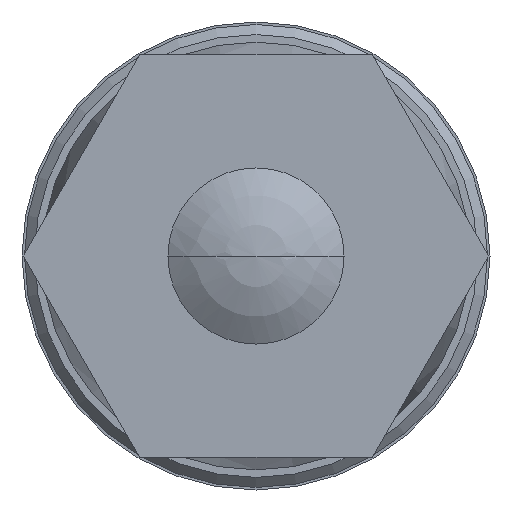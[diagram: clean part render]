
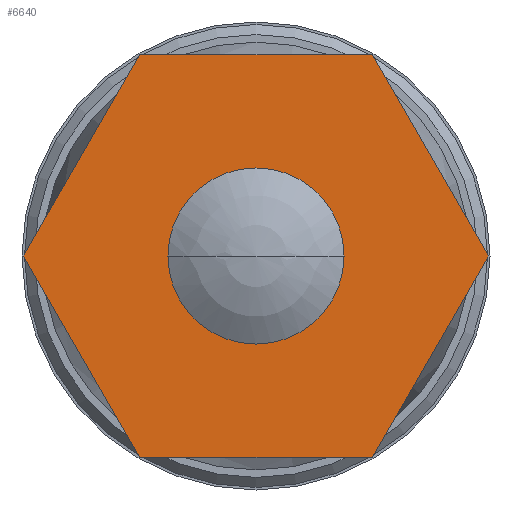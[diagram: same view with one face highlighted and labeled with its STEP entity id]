
A CAD part, left-side view. The second image highlights one B-rep face of the part: STEP entity #6640.
In plain terms, the highlighted planar face has unit normal (-1, 0, 0).
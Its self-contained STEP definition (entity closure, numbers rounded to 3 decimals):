
#5940=CARTESIAN_POINT('',(7.5,2.125,0.));
#5950=DIRECTION('',(1.,0.,0.));
#5960=DIRECTION('',(0.,-1.,0.));
#5970=AXIS2_PLACEMENT_3D('',#5940,#5950,#5960);
#5980=PLANE('',#5970);
#5990=CARTESIAN_POINT('',(7.5,0.,0.));
#6000=DIRECTION('',(1.,0.,0.));
#6010=DIRECTION('',(0.,-1.,0.));
#6020=AXIS2_PLACEMENT_3D('',#5990,#6000,#6010);
#6030=CIRCLE('',#6020,1.75);
#6040=CARTESIAN_POINT('',(7.5,1.75,0.));
#6050=VERTEX_POINT('',#6040);
#6060=CARTESIAN_POINT('',(7.5,-1.75,0.));
#6070=VERTEX_POINT('',#6060);
#6080=EDGE_CURVE('',#6050,#6070,#6030,.T.);
#6090=ORIENTED_EDGE('',*,*,#6080,.T.);
#6100=EDGE_CURVE('',#6070,#6050,#6030,.T.);
#6110=ORIENTED_EDGE('',*,*,#6100,.T.);
#6120=EDGE_LOOP('',(#6110,#6090));
#6130=FACE_BOUND('',#6120,.T.);
#6140=CARTESIAN_POINT('',(7.5,2.309,-4.));
#6150=DIRECTION('',(0.,-1.,0.));
#6160=VECTOR('',#6150,1.);
#6170=LINE('',#6140,#6160);
#6180=CARTESIAN_POINT('',(7.5,2.309,-4.));
#6190=VERTEX_POINT('',#6180);
#6200=CARTESIAN_POINT('',(7.5,-2.309,-4.));
#6210=VERTEX_POINT('',#6200);
#6220=EDGE_CURVE('',#6190,#6210,#6170,.T.);
#6230=ORIENTED_EDGE('',*,*,#6220,.T.);
#6240=CARTESIAN_POINT('',(7.5,2.309,-4.));
#6250=DIRECTION('',(0.,0.5,0.866));
#6260=VECTOR('',#6250,1.);
#6270=LINE('',#6240,#6260);
#6280=CARTESIAN_POINT('',(7.5,4.619,
0.));
#6290=VERTEX_POINT('',#6280);
#6300=EDGE_CURVE('',#6190,#6290,#6270,.T.);
#6310=ORIENTED_EDGE('',*,*,#6300,.F.);
#6320=CARTESIAN_POINT('',(7.5,2.309,4.));
#6330=DIRECTION('',(0.,0.5,-0.866));
#6340=VECTOR('',#6330,1.);
#6350=LINE('',#6320,#6340);
#6360=CARTESIAN_POINT('',(7.5,2.309,4.));
#6370=VERTEX_POINT('',#6360);
#6380=EDGE_CURVE('',#6370,#6290,#6350,.T.);
#6390=ORIENTED_EDGE('',*,*,#6380,.T.);
#6400=CARTESIAN_POINT('',(7.5,2.309,4.));
#6410=DIRECTION('',(0.,-1.,0.));
#6420=VECTOR('',#6410,1.);
#6430=LINE('',#6400,#6420);
#6440=CARTESIAN_POINT('',(7.5,-2.309,4.));
#6450=VERTEX_POINT('',#6440);
#6460=EDGE_CURVE('',#6370,#6450,#6430,.T.);
#6470=ORIENTED_EDGE('',*,*,#6460,.F.);
#6480=CARTESIAN_POINT('',(7.5,-2.309,4.));
#6490=DIRECTION('',(0.,-0.5,-0.866));
#6500=VECTOR('',#6490,1.);
#6510=LINE('',#6480,#6500);
#6520=CARTESIAN_POINT('',(7.5,-4.619,
0.));
#6530=VERTEX_POINT('',#6520);
#6540=EDGE_CURVE('',#6450,#6530,#6510,.T.);
#6550=ORIENTED_EDGE('',*,*,#6540,.F.);
#6560=CARTESIAN_POINT('',(7.5,-2.309,-4.));
#6570=DIRECTION('',(0.,-0.5,0.866));
#6580=VECTOR('',#6570,1.);
#6590=LINE('',#6560,#6580);
#6600=EDGE_CURVE('',#6210,#6530,#6590,.T.);
#6610=ORIENTED_EDGE('',*,*,#6600,.T.);
#6620=EDGE_LOOP('',(#6610,#6550,#6470,#6390,#6310,#6230));
#6630=FACE_OUTER_BOUND('',#6620,.T.);
#6640=ADVANCED_FACE('',(#6130,#6630),#5980,.F.);
